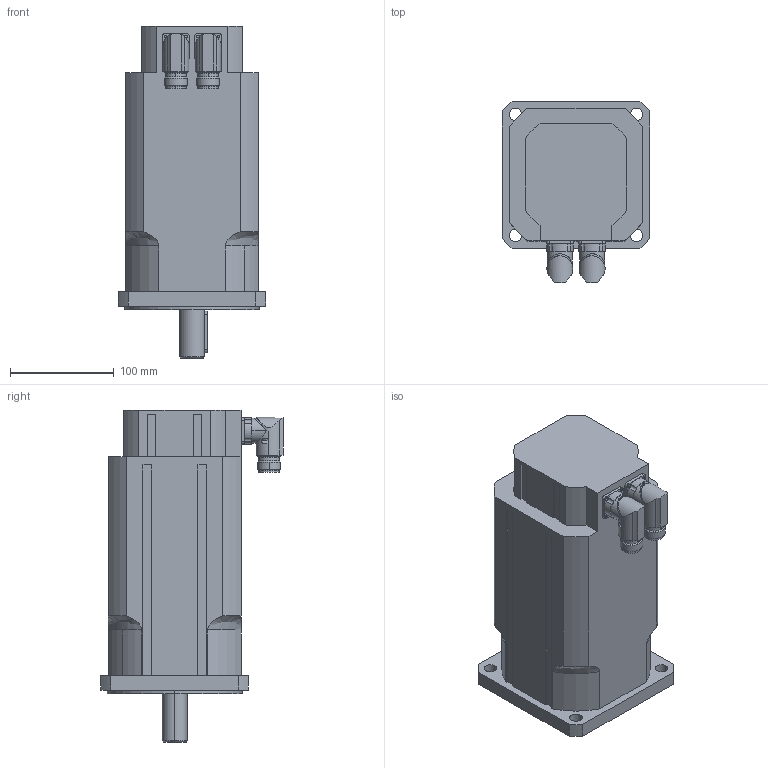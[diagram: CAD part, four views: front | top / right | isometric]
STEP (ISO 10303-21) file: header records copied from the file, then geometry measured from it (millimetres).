
FILE_DESCRIPTION(('STEP AP203'),'2;1');
FILE_NAME('MT5-1700.stp','2006-08-28T20:14:33',(''),(''),'2005.2.102','THINKDESIGN','');
FILE_SCHEMA(('CONFIG_CONTROL_DESIGN'));
Length unit declared in the file: millimetre
Bounding box: 142 x 175.5 x 320 mm (x, y, z)
Volume: 4088903.2 mm3; surface area: 195516.8 mm2
Topology: 3 solids, 3 shells, 257 faces, 681 edges, 439 vertices
Faces by surface type: cylinder 108, plane 107, bspline 42
Entity records: 9366 total; most frequent: CARTESIAN_POINT 2935, ORIENTED_EDGE 1358, DIRECTION 1309, EDGE_CURVE 679, AXIS2_PLACEMENT_3D 483, VERTEX_POINT 439, VECTOR 343, LINE 343
